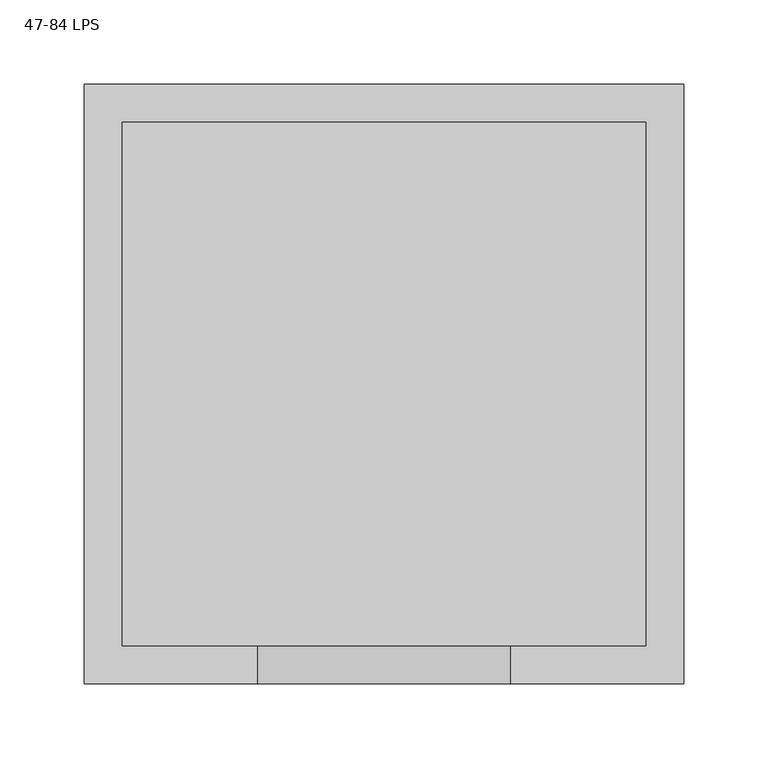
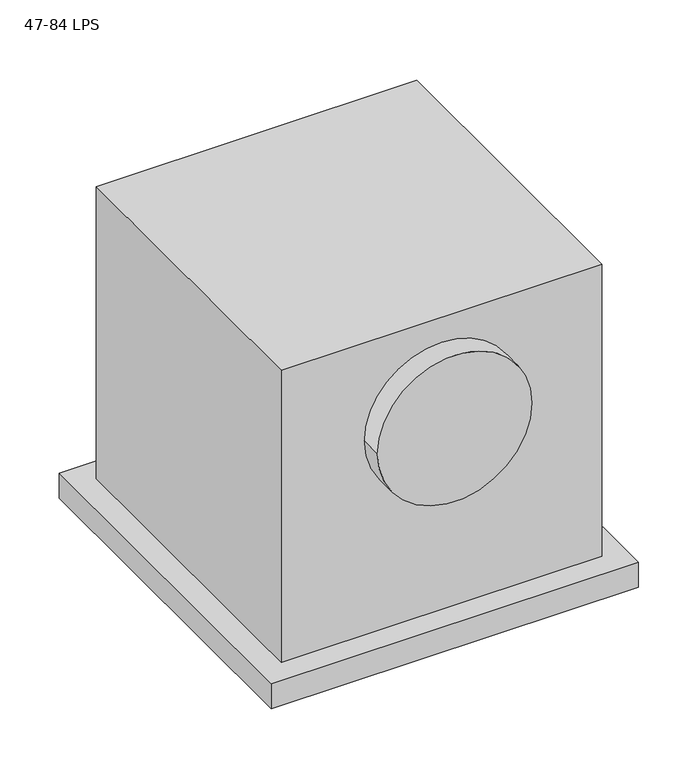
"""IFC4 building model written with IfcOpenShell, lengths in millimetres: proxy geometry, M_Exhaust Unit with Cabinet - Round Connection - Ceiling Mounted : 47-84 LPS."""

import ifcopenshell
import ifcopenshell.guid

model = None  # the IFC model being written
_history = None  # IfcOwnerHistory: only IFC2X3 demands one
_inside = {}  # id of a spatial element -> (the spatial element, [elements in it])
_under = {}  # id of a project, library or spatial element -> (it, [spatial elements below it])
_declared = {}  # id of a project -> (the project, [libraries it declares])
_typed = {}  # id of a type object -> (the type object, [elements of that type])
_made_of = {}  # id of a material, layer set ... -> (it, [elements and type objects made of it])


def new_model(schema):
    """Start an empty IFC model of exactly this schema.

    Asked for "IFC4X3", IfcOpenShell would pick the latest addendum, in which some entities
    have other attributes; the version numbers below select the first issue.
    IFC2X3 requires an IfcOwnerHistory on every rooted entity: one is made here for all.
    """
    global model, _history
    if schema == "IFC4X3":
        model = ifcopenshell.file(schema_version=(4, 3, 0, 0))
    else:
        model = ifcopenshell.file(schema=schema)
    _inside.clear()
    _under.clear()
    _declared.clear()
    _typed.clear()
    _made_of.clear()
    _history = None
    if model.schema == "IFC2X3":
        org = make("IfcOrganization", Name="unknown")
        user = make(
            "IfcPersonAndOrganization",
            ThePerson=make("IfcPerson", FamilyName="unknown"),
            TheOrganization=org,
        )
        app = make(
            "IfcApplication",
            ApplicationDeveloper=org,
            Version="unknown",
            ApplicationFullName="unknown",
            ApplicationIdentifier="unknown",
        )
        _history = make(
            "IfcOwnerHistory",
            OwningUser=user,
            OwningApplication=app,
            ChangeAction="ADDED",
            CreationDate=0,
        )
    return model


def make(cls, **values):
    """One entity of the class cls with the attributes given. An attribute that is None is left unset."""
    return model.create_entity(
        cls, **{name: value for name, value in values.items() if value is not None}
    )


def rooted(cls, **values):
    """An entity with a GlobalId (a new one), such as an element, a storey or a relation."""
    return make(cls, GlobalId=ifcopenshell.guid.new(), OwnerHistory=_history, **values)


def si_unit(unit_type, name, prefix=None):
    """IfcSIUnit, for example si_unit("LENGTHUNIT", "METRE", prefix="MILLI")."""
    return make("IfcSIUnit", UnitType=unit_type, Prefix=prefix, Name=name)


def assignment(units):
    """IfcUnitAssignment: the units of a project."""
    return None if units is None else make("IfcUnitAssignment", Units=units)


def point(xyz):
    """IfcCartesianPoint."""
    return None if xyz is None else make("IfcCartesianPoint", Coordinates=xyz)


def direction(xyz):
    """IfcDirection."""
    return None if xyz is None else make("IfcDirection", DirectionRatios=xyz)


def frame(location, z_axis=None, x_axis=None):
    """IfcAxis2Placement3D, a coordinate frame: its origin and axes. An axis left out is left unset."""
    return make(
        "IfcAxis2Placement3D",
        Location=point(location),
        Axis=direction(z_axis),
        RefDirection=direction(x_axis),
    )


def frame_2d(location, x_axis=None):
    """IfcAxis2Placement2D, a coordinate frame in the plane: its origin and x axis."""
    return make(
        "IfcAxis2Placement2D", Location=point(location), RefDirection=direction(x_axis)
    )


def origin():
    """The frame at (0, 0, 0) with its axes left unset."""
    return frame((0.0, 0.0, 0.0))


def origin_with_axes():
    """The frame at (0, 0, 0) with the z axis (0, 0, 1) and the x axis (1, 0, 0) written out."""
    return frame((0.0, 0.0, 0.0), z_axis=(0.0, 0.0, 1.0), x_axis=(1.0, 0.0, 0.0))


def place(relative_to, where):
    """IfcLocalPlacement: puts the frame where relative to a parent placement (None: the world)."""
    return make(
        "IfcLocalPlacement", PlacementRelTo=relative_to, RelativePlacement=where
    )


def context(
    kind, dimensions, precision=None, world=None, true_north=None, identifier=None
):
    """IfcGeometricRepresentationContext, for example the 3D "Model" context."""
    return make(
        "IfcGeometricRepresentationContext",
        ContextIdentifier=identifier,
        ContextType=kind,
        CoordinateSpaceDimension=dimensions,
        Precision=precision,
        WorldCoordinateSystem=world,
        TrueNorth=true_north,
    )


def project(units=None, contexts=None):
    """IfcProject with its units and contexts."""
    return rooted(
        "IfcProject",
        Name="project",
        RepresentationContexts=contexts,
        UnitsInContext=assignment(units),
    )


def spatial(cls, under=None, at=None, **own):
    """A site, building, storey or space (cls), placed at a placement, below another one or the project."""
    s = rooted(cls, ObjectPlacement=at, **own)
    if under is not None:
        _under.setdefault(under.id(), (under, []))[1].append(s)
    return s


def polyline(points):
    """IfcPolyline through the points."""
    return make("IfcPolyline", Points=[point(p) for p in points])


def circle_curve(where, radius):
    """IfcCircle in the frame where."""
    return make("IfcCircle", Position=where, Radius=radius)


def trimmed(basis, trim1, trim2, sense, master):
    """IfcTrimmedCurve: the piece of a basis curve between two trims."""
    return make(
        "IfcTrimmedCurve",
        BasisCurve=basis,
        Trim1=trim1,
        Trim2=trim2,
        SenseAgreement=sense,
        MasterRepresentation=master,
    )


def segment(curve, same_sense, transition):
    """IfcCompositeCurveSegment."""
    return make(
        "IfcCompositeCurveSegment",
        Transition=transition,
        SameSense=same_sense,
        ParentCurve=curve,
    )


def composite_curve(segments, self_intersect=None):
    """IfcCompositeCurve: segments joined end to end."""
    return make("IfcCompositeCurve", Segments=segments, SelfIntersect=self_intersect)


def outline(outer, holes=None, kind="AREA"):
    """IfcArbitraryClosedProfileDef: a profile drawn as a closed curve; with holes, ...WithVoids."""
    if holes is None:
        return make("IfcArbitraryClosedProfileDef", ProfileType=kind, OuterCurve=outer)
    return make(
        "IfcArbitraryProfileDefWithVoids",
        ProfileType=kind,
        OuterCurve=outer,
        InnerCurves=holes,
    )


def extrude(swept, where, along, depth):
    """IfcExtrudedAreaSolid: the profile swept, set in the frame where, extruded along a direction by depth."""
    return make(
        "IfcExtrudedAreaSolid",
        SweptArea=swept,
        Position=where,
        ExtrudedDirection=direction(along),
        Depth=depth,
    )


def shape(context_of_items, identifier, shape_type, items):
    """IfcShapeRepresentation: the items that make up one representation, for example the "Body"."""
    return make(
        "IfcShapeRepresentation",
        ContextOfItems=context_of_items,
        RepresentationIdentifier=identifier,
        RepresentationType=shape_type,
        Items=items,
    )


def source(mapping_origin, context_of_items, identifier, shape_type, items):
    """IfcRepresentationMap: a shape defined once, which mapped items show again and again."""
    return make(
        "IfcRepresentationMap",
        MappingOrigin=mapping_origin,
        MappedRepresentation=shape(context_of_items, identifier, shape_type, items),
    )


def transform(
    local_origin,
    x_axis=None,
    y_axis=None,
    z_axis=None,
    scale=None,
    scale2=None,
    scale3=None,
    uniform=True,
):
    """IfcCartesianTransformationOperator3D, or its non-uniform kind. x_axis, y_axis, z_axis: its Axis1, 2, 3."""
    if uniform:
        return make(
            "IfcCartesianTransformationOperator3D",
            Axis1=direction(x_axis),
            Axis2=direction(y_axis),
            LocalOrigin=point(local_origin),
            Scale=scale,
            Axis3=direction(z_axis),
        )
    return make(
        "IfcCartesianTransformationOperator3DnonUniform",
        Axis1=direction(x_axis),
        Axis2=direction(y_axis),
        LocalOrigin=point(local_origin),
        Scale=scale,
        Axis3=direction(z_axis),
        Scale2=scale2,
        Scale3=scale3,
    )


def mapped(mapping_source, mapping_target):
    """IfcMappedItem: shows the shape of a source again, moved by a transform."""
    return make(
        "IfcMappedItem", MappingSource=mapping_source, MappingTarget=mapping_target
    )


def made_of(thing, what):
    """Note that an element or type object is made of a material, layer set ...; save() writes the relation."""
    if what is not None:
        _made_of.setdefault(what.id(), (what, []))[1].append(thing)
    return thing


def element(
    cls,
    number,
    at=None,
    inside=None,
    cuts=None,
    type_object=None,
    material=None,
    context=None,
    identifier="Body",
    shape_type=None,
    held_by="IfcProductDefinitionShape",
    body=None,
    shapes=None,
    **own,
):
    """One element of the class cls, such as IfcWall. Its Tag is "e" and its number.

    at: its placement. inside: the storey or other place that contains it. cuts: it is an
    opening in that element (IfcRelVoidsElement). A single representation is given by context,
    identifier, shape_type and body (its items); several are given by shapes. held_by: the class
    of the entity that holds the representations. save() writes the other relations.
    """
    e = rooted(cls, Tag="e%d" % number, ObjectPlacement=at, **own)
    if body is not None:
        shapes = [shape(context, identifier, shape_type, body)]
    if shapes is not None:
        e.Representation = make(held_by, Representations=shapes)
    if inside is not None:
        _inside.setdefault(inside.id(), (inside, []))[1].append(e)
    if cuts is not None:
        rooted(
            "IfcRelVoidsElement", RelatingBuildingElement=cuts, RelatedOpeningElement=e
        )
    if type_object is not None:
        _typed.setdefault(type_object.id(), (type_object, []))[1].append(e)
    return made_of(e, material)


def aggregate(whole, parts):
    """IfcRelAggregates: a whole, such as a stair, and the parts it consists of."""
    return rooted("IfcRelAggregates", RelatingObject=whole, RelatedObjects=parts)


def save(model, path):
    """Write the relations noted so far, then the file.

    IfcRelAggregates (storeys below a building ...), IfcRelContainedInSpatialStructure (elements
    in a storey), IfcRelDefinesByType, IfcRelAssociatesMaterial and IfcRelDeclares: one each for
    every whole, place, type object, material and project.
    """
    for whole, parts in _under.values():
        aggregate(whole, parts)
    for where, things in _inside.values():
        rooted(
            "IfcRelContainedInSpatialStructure",
            RelatedElements=things,
            RelatingStructure=where,
        )
    for kind, things in _typed.values():
        rooted("IfcRelDefinesByType", RelatedObjects=things, RelatingType=kind)
    for what, things in _made_of.values():
        rooted("IfcRelAssociatesMaterial", RelatedObjects=things, RelatingMaterial=what)
    for by, libraries in _declared.values():
        rooted("IfcRelDeclares", RelatingContext=by, RelatedDefinitions=libraries)
    model.write(path)


def proxy_47_84_lps_344db5a5(model_context):
    return source(origin(), model_context, "Body", "SweptSolid", [
        extrude(outline(polyline([(178.0, 178.0), (178.0, -178.0), (-178.0, -178.0), (-178.0, 178.0), (178.0, 178.0)])), frame((0.0, 0.0, -25.4), z_axis=(0.0, 0.0, 1.0), x_axis=(1.0, 0.0, 0.0)), (0.0, 0.0, 1.0), 25.4),
        extrude(outline(polyline([(155.5, 155.5), (155.5, -155.5), (-155.5, -155.5), (-155.5, 155.5), (155.5, 155.5)])), origin_with_axes(), (0.0, 0.0, 1.0), 300.0),
        extrude(outline(composite_curve([segment(trimmed(circle_curve(frame_2d((199.6, 0.0)), 75.0), [point((199.6, -75.0))], [point((199.6, 75.0))], False, "CARTESIAN"), True, "CONTINUOUS"), segment(trimmed(circle_curve(frame_2d((199.6, 0.0)), 75.0), [point((199.6, 75.0))], [point((199.6, -75.0))], False, "CARTESIAN"), True, "CONTINUOUS")], self_intersect=False)), frame((0.0, -178.0, 0.0), z_axis=(0.0, 1.0, 0.0), x_axis=(0.0, 0.0, 1.0)), (0.0, 0.0, 1.0), 22.5),
    ])


if __name__ == "__main__":
    model = new_model("IFC4")
    model_context = context("Model", 3, world=origin())
    ifc_project = project(units=[si_unit("LENGTHUNIT", "METRE", prefix="MILLI")], contexts=[model_context])
    site = spatial("IfcSite", under=ifc_project)
    building = spatial("IfcBuilding", under=site)
    placement = place(None, origin())
    proxy_47_84_lps_shape = proxy_47_84_lps_344db5a5(model_context)
    element("IfcBuildingElementProxy", 1, Name="M_Exhaust Unit with Cabinet - Round Connection - Ceiling Mounted : 47-84 LPS", ObjectType="M_Exhaust Unit with Cabinet - Round Connection - Ceiling Mounted : 47-84 LPS", at=placement, inside=building, context=model_context, shape_type="MappedRepresentation", body=[
        mapped(proxy_47_84_lps_shape, transform((0.0, 0.0, 0.0), x_axis=(1.0, 0.0, 0.0), y_axis=(0.0, 1.0, 0.0), z_axis=(0.0, 0.0, 1.0))),
    ])
    save(model, "model.ifc")
